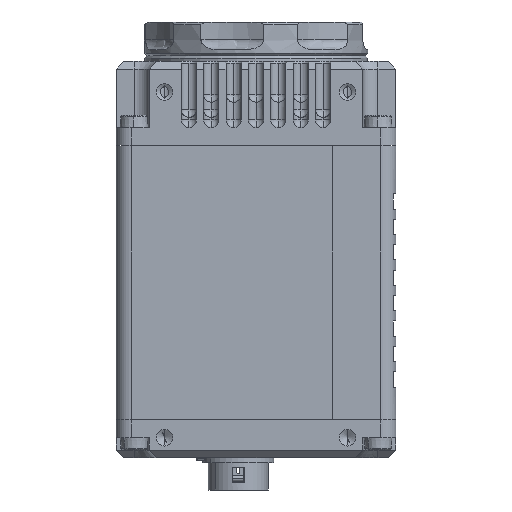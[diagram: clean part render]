
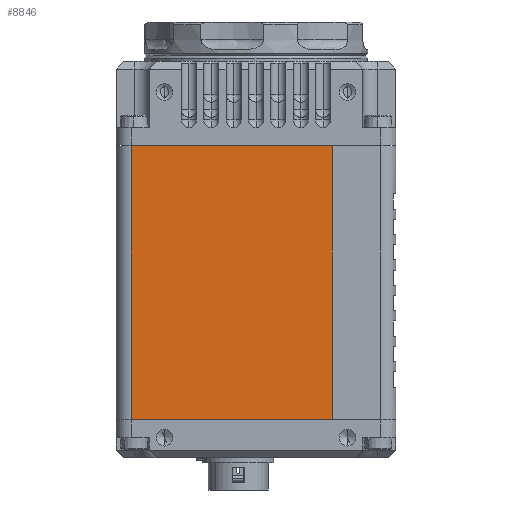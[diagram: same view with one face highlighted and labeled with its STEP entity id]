
A CAD part, left-side view. The second image highlights one B-rep face of the part: STEP entity #8846.
In plain terms, the highlighted planar face has unit normal (-1, 0, 0).
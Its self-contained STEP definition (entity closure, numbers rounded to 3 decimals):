
#8846 = ADVANCED_FACE ( 'NONE', ( #111161 ), #119563, .F. ) ;
#11068 = VECTOR ( 'NONE', #118125, 1000. ) ;
#18277 = VERTEX_POINT ( 'NONE', #45461 ) ;
#25574 = VECTOR ( 'NONE', #81981, 1000. ) ;
#27121 = DIRECTION ( 'NONE',  ( 0., 1., 0. ) ) ;
#37643 = AXIS2_PLACEMENT_3D ( 'NONE', #90420, #91100, #27121 ) ;
#41981 = EDGE_LOOP ( 'NONE', ( #55434, #96938, #58523, #77146 ) ) ;
#45104 = EDGE_CURVE ( 'NONE', #106134, #51955, #105360, .T. ) ;
#45461 = CARTESIAN_POINT ( 'NONE',  ( -27.5, -21.25, 53.9 ) ) ;
#50020 = CARTESIAN_POINT ( 'NONE',  ( -27.5, -21.25, 53.9 ) ) ;
#51802 = LINE ( 'NONE', #124738, #93283 ) ;
#51955 = VERTEX_POINT ( 'NONE', #113193 ) ;
#52067 = LINE ( 'NONE', #50020, #118083 ) ;
#52739 = DIRECTION ( 'NONE',  ( 0., 0., -1. ) ) ;
#55434 = ORIENTED_EDGE ( 'NONE', *, *, #108358, .F. ) ;
#58523 = ORIENTED_EDGE ( 'NONE', *, *, #45104, .T. ) ;
#68280 = CARTESIAN_POINT ( 'NONE',  ( -27.5, 18.25, 53.9 ) ) ;
#70239 = CARTESIAN_POINT ( 'NONE',  ( -27.5, 18.25, 0. ) ) ;
#77146 = ORIENTED_EDGE ( 'NONE', *, *, #116404, .F. ) ;
#81981 = DIRECTION ( 'NONE',  ( 0., -1., 0. ) ) ;
#85182 = VERTEX_POINT ( 'NONE', #68280 ) ;
#90420 = CARTESIAN_POINT ( 'NONE',  ( -27.5, 21.25, 53.9 ) ) ;
#91100 = DIRECTION ( 'NONE',  ( 1., 0., 0. ) ) ;
#93283 = VECTOR ( 'NONE', #137204, 1000. ) ;
#94982 = CARTESIAN_POINT ( 'NONE',  ( -27.5, 21.25, 0. ) ) ;
#96938 = ORIENTED_EDGE ( 'NONE', *, *, #109833, .T. ) ;
#105360 = LINE ( 'NONE', #94982, #25574 ) ;
#106134 = VERTEX_POINT ( 'NONE', #70239 ) ;
#108358 = EDGE_CURVE ( 'NONE', #85182, #18277, #108395, .T. ) ;
#108395 = LINE ( 'NONE', #118812, #11068 ) ;
#109833 = EDGE_CURVE ( 'NONE', #85182, #106134, #51802, .T. ) ;
#111161 = FACE_OUTER_BOUND ( 'NONE', #41981, .T. ) ;
#113193 = CARTESIAN_POINT ( 'NONE',  ( -27.5, -21.25, 0. ) ) ;
#116404 = EDGE_CURVE ( 'NONE', #18277, #51955, #52067, .T. ) ;
#118083 = VECTOR ( 'NONE', #52739, 1000. ) ;
#118125 = DIRECTION ( 'NONE',  ( 0., -1., 0. ) ) ;
#118812 = CARTESIAN_POINT ( 'NONE',  ( -27.5, 21.25, 53.9 ) ) ;
#119563 = PLANE ( 'NONE',  #37643 ) ;
#124738 = CARTESIAN_POINT ( 'NONE',  ( -27.5, 18.25, 53.9 ) ) ;
#137204 = DIRECTION ( 'NONE',  ( 0., 0., -1. ) ) ;
